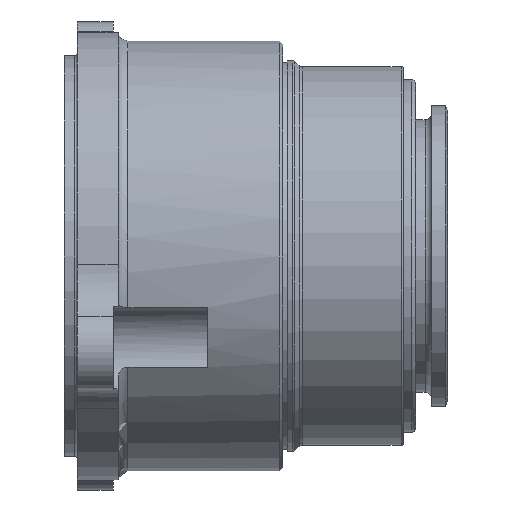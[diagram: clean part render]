
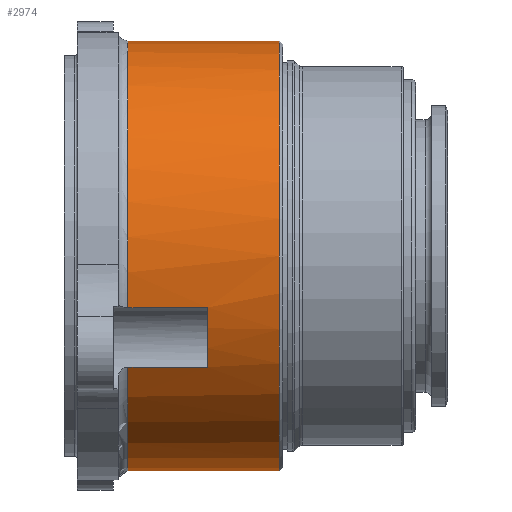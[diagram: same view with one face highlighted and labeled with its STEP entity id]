
A CAD part, left-side view. The second image highlights one B-rep face of the part: STEP entity #2974.
In plain terms, the highlighted cylindrical face has radius 33.528 mm (diameter 67.056 mm), a full revolution.
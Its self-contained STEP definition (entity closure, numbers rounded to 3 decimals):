
#104=LINE('',#4235,#184);
#105=LINE('',#4240,#185);
#106=LINE('',#4244,#186);
#107=LINE('',#4248,#187);
#108=LINE('',#4252,#188);
#109=LINE('',#4256,#189);
#184=VECTOR('',#3626,1000.);
#185=VECTOR('',#3629,1000.);
#186=VECTOR('',#3632,1000.);
#187=VECTOR('',#3635,1000.);
#188=VECTOR('',#3638,1000.);
#189=VECTOR('',#3641,1000.);
#269=CYLINDRICAL_SURFACE('',#3176,33.528);
#473=ORIENTED_EDGE('',*,*,#888,.T.);
#474=ORIENTED_EDGE('',*,*,#889,.F.);
#475=ORIENTED_EDGE('',*,*,#890,.T.);
#476=ORIENTED_EDGE('',*,*,#891,.F.);
#477=ORIENTED_EDGE('',*,*,#892,.T.);
#478=ORIENTED_EDGE('',*,*,#893,.F.);
#479=ORIENTED_EDGE('',*,*,#894,.T.);
#480=ORIENTED_EDGE('',*,*,#895,.F.);
#481=ORIENTED_EDGE('',*,*,#896,.T.);
#482=ORIENTED_EDGE('',*,*,#897,.F.);
#483=ORIENTED_EDGE('',*,*,#898,.T.);
#484=ORIENTED_EDGE('',*,*,#899,.F.);
#485=ORIENTED_EDGE('',*,*,#900,.T.);
#888=EDGE_CURVE('',#1126,#1126,#1297,.T.);
#889=EDGE_CURVE('',#1127,#1128,#104,.T.);
#890=EDGE_CURVE('',#1127,#1129,#1298,.T.);
#891=EDGE_CURVE('',#1130,#1129,#105,.T.);
#892=EDGE_CURVE('',#1130,#1131,#1299,.T.);
#893=EDGE_CURVE('',#1132,#1131,#106,.T.);
#894=EDGE_CURVE('',#1132,#1133,#1300,.T.);
#895=EDGE_CURVE('',#1134,#1133,#107,.T.);
#896=EDGE_CURVE('',#1134,#1135,#1301,.T.);
#897=EDGE_CURVE('',#1136,#1135,#108,.T.);
#898=EDGE_CURVE('',#1136,#1137,#1302,.T.);
#899=EDGE_CURVE('',#1138,#1137,#109,.T.);
#900=EDGE_CURVE('',#1138,#1128,#1303,.T.);
#1126=VERTEX_POINT('',#4234);
#1127=VERTEX_POINT('',#4236);
#1128=VERTEX_POINT('',#4237);
#1129=VERTEX_POINT('',#4239);
#1130=VERTEX_POINT('',#4241);
#1131=VERTEX_POINT('',#4243);
#1132=VERTEX_POINT('',#4245);
#1133=VERTEX_POINT('',#4247);
#1134=VERTEX_POINT('',#4249);
#1135=VERTEX_POINT('',#4251);
#1136=VERTEX_POINT('',#4253);
#1137=VERTEX_POINT('',#4255);
#1138=VERTEX_POINT('',#4257);
#1297=CIRCLE('',#3177,33.528);
#1298=CIRCLE('',#3178,33.528);
#1299=CIRCLE('',#3179,33.528);
#1300=CIRCLE('',#3180,33.528);
#1301=CIRCLE('',#3181,33.528);
#1302=CIRCLE('',#3182,33.528);
#1303=CIRCLE('',#3183,33.528);
#1502=EDGE_LOOP('',(#473));
#1503=EDGE_LOOP('',(#474,#475,#476,#477,#478,#479,#480,#481,#482,#483,#484,
#485));
#1737=FACE_BOUND('',#1502,.T.);
#1738=FACE_BOUND('',#1503,.T.);
#2974=ADVANCED_FACE('',(#1737,#1738),#269,.T.);
#3176=AXIS2_PLACEMENT_3D('',#4232,#3622,#3623);
#3177=AXIS2_PLACEMENT_3D('',#4233,#3624,#3625);
#3178=AXIS2_PLACEMENT_3D('',#4238,#3627,#3628);
#3179=AXIS2_PLACEMENT_3D('',#4242,#3630,#3631);
#3180=AXIS2_PLACEMENT_3D('',#4246,#3633,#3634);
#3181=AXIS2_PLACEMENT_3D('',#4250,#3636,#3637);
#3182=AXIS2_PLACEMENT_3D('',#4254,#3639,#3640);
#3183=AXIS2_PLACEMENT_3D('',#4258,#3642,#3643);
#3622=DIRECTION('',(0.,1.,0.));
#3623=DIRECTION('',(0.,0.,-1.));
#3624=DIRECTION('',(0.,1.,0.));
#3625=DIRECTION('',(0.,0.,-1.));
#3626=DIRECTION('',(0.,-1.,0.));
#3627=DIRECTION('',(0.,-1.,0.));
#3628=DIRECTION('',(0.,0.,-1.));
#3629=DIRECTION('',(0.,1.,0.));
#3630=DIRECTION('',(0.,-1.,0.));
#3631=DIRECTION('',(0.,0.,1.));
#3632=DIRECTION('',(0.,-1.,0.));
#3633=DIRECTION('',(0.,-1.,0.));
#3634=DIRECTION('',(0.,0.,-1.));
#3635=DIRECTION('',(0.,1.,0.));
#3636=DIRECTION('',(0.,-1.,0.));
#3637=DIRECTION('',(0.,0.,1.));
#3638=DIRECTION('',(0.,-1.,0.));
#3639=DIRECTION('',(0.,-1.,0.));
#3640=DIRECTION('',(0.,0.,-1.));
#3641=DIRECTION('',(0.,1.,0.));
#3642=DIRECTION('',(0.,-1.,0.));
#3643=DIRECTION('',(0.,0.,1.));
#4232=CARTESIAN_POINT('',(0.,-60.008,0.));
#4233=CARTESIAN_POINT('',(0.,3.048,0.));
#4234=CARTESIAN_POINT('',(0.,3.048,-33.528));
#4235=CARTESIAN_POINT('',(16.193,21.209,29.359));
#4236=CARTESIAN_POINT('',(16.193,26.67,29.359));
#4237=CARTESIAN_POINT('',(16.193,14.224,29.359));
#4238=CARTESIAN_POINT('',(0.,26.67,0.));
#4239=CARTESIAN_POINT('',(-32.549,26.67,-8.042));
#4240=CARTESIAN_POINT('',(-32.549,21.209,-8.042));
#4241=CARTESIAN_POINT('',(-32.549,14.224,-8.042));
#4242=CARTESIAN_POINT('',(0.,14.224,0.));
#4243=CARTESIAN_POINT('',(-28.703,14.224,-17.329));
#4244=CARTESIAN_POINT('',(-28.703,21.209,-17.329));
#4245=CARTESIAN_POINT('',(-28.703,26.67,-17.329));
#4246=CARTESIAN_POINT('',(0.,26.67,0.));
#4247=CARTESIAN_POINT('',(16.193,26.67,-29.359));
#4248=CARTESIAN_POINT('',(16.193,21.209,-29.359));
#4249=CARTESIAN_POINT('',(16.193,14.224,-29.359));
#4250=CARTESIAN_POINT('',(0.,14.224,0.));
#4251=CARTESIAN_POINT('',(24.167,14.224,-23.239));
#4252=CARTESIAN_POINT('',(24.167,21.209,-23.239));
#4253=CARTESIAN_POINT('',(24.167,14.529,-23.239));
#4254=CARTESIAN_POINT('',(0.,14.529,0.));
#4255=CARTESIAN_POINT('',(24.167,14.529,23.239));
#4256=CARTESIAN_POINT('',(24.167,21.209,23.239));
#4257=CARTESIAN_POINT('',(24.167,14.224,23.239));
#4258=CARTESIAN_POINT('',(0.,14.224,0.));
